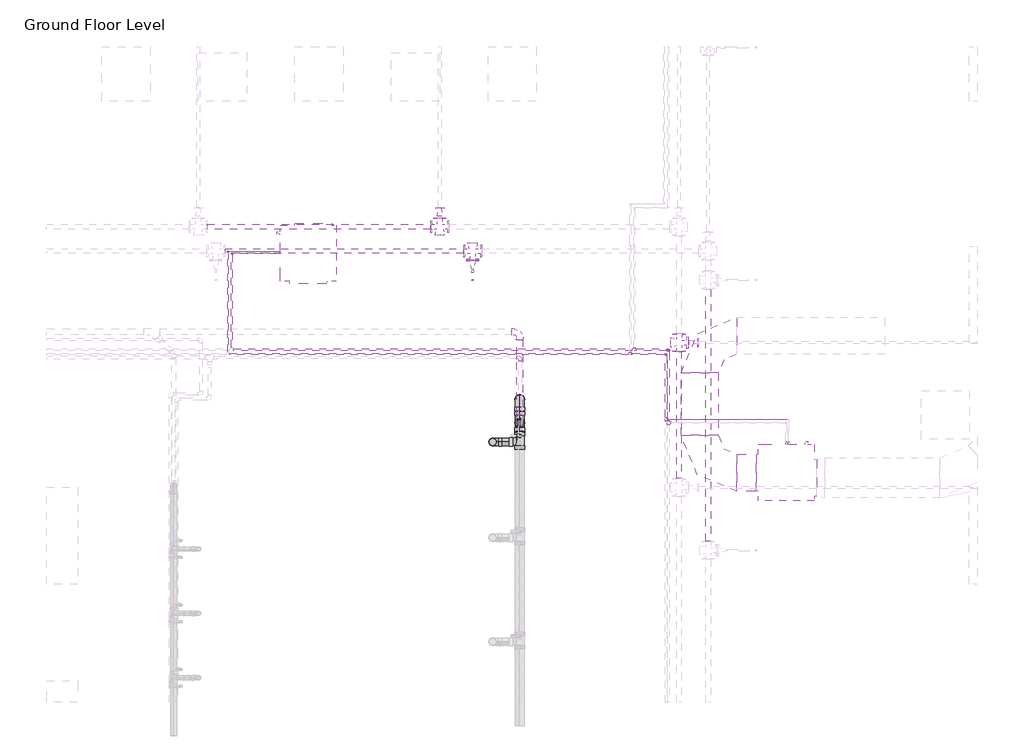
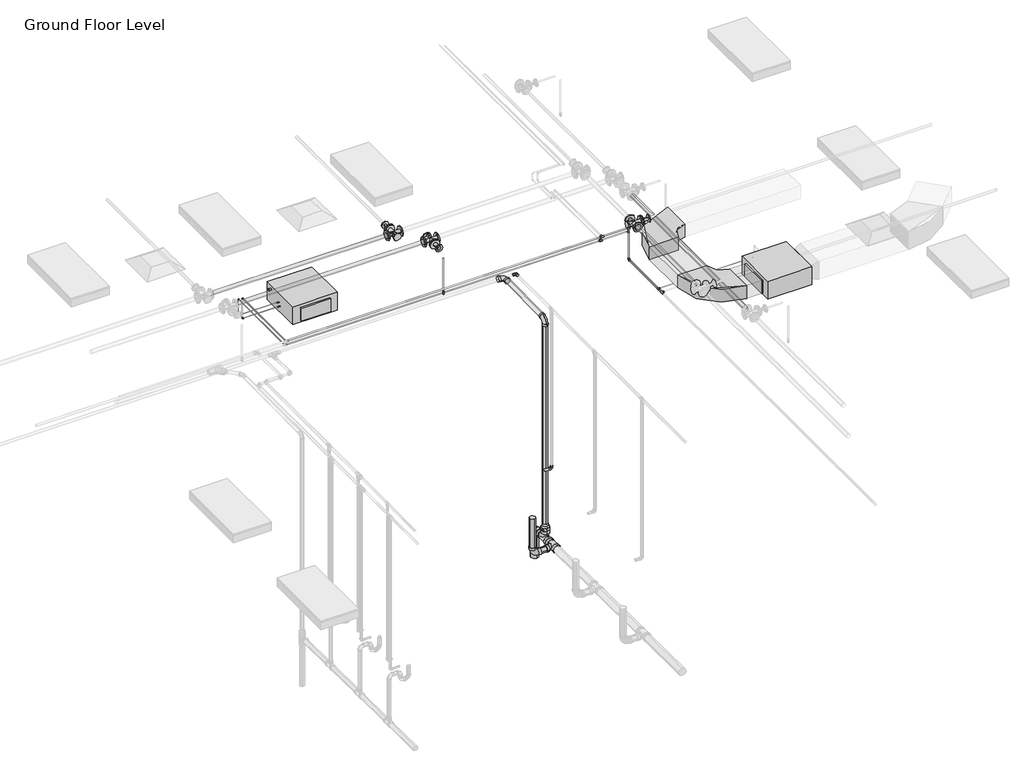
# One storey, part 66 of 73: 31 pipe fittings, 29 pipe segments, 2 duct fittings, 2 duct segments, 2 proxies, 1 fire suppression terminal.
"""IFC4 building model written with IfcOpenShell, lengths in millimetres."""

from ifc_helpers import new_model, si_unit, point, frame, frame_2d, origin, place, context, project, spatial, polyline, circle_curve, trimmed, segment, composite_curve, outline, extrude, transform, mapped, element, save
from components import fcu_daikin_iu_bad131e0, m_rectangular_elbow_radius_1_w_54c96895, m_sprinkler_pendent_15_mm_pendent_06fcbd8e, m_bend_pvc_sch_40_dwv_standard_a4b99d37, m_bend_pvc_sch_40_dwv_standard_b7b4a97e, m_bend_pvc_sch_40_dwv_standard_c8221c0d, m_bend_pvc_sch_40_dwv_standard_69456cca, m_elbow_generic_standard_a088f956, m_elbow_generic_standard_2a704253, m_elbow_generic_standard_6b1a80c6, m_elbow_generic_standard_5542be81, m_elbow_generic_standard_73005802, m_elbow_generic_standard_bb5ffebe, m_reducer_flanged_cs_class_150_standard_a7631c35, m_reducer_flanged_cs_class_150_standard_55262df0, m_reducer_pvc_sch_40_dwv_standard_9996614f, m_tee_generic_standard_cdc1cff5, m_tee_generic_standard_bbfc025c, m_tee_reducing_sanitary_pvc_sch_40_dwv_standard_b49161a9, m_tee_reducing_sanitary_pvc_sch_40_dwv_standard_c42f3c59, m_tee_round_base_flanged_cs_class_150_standard_dd767e04, m_transition_generic_standard_e9aec4dd, m_transition_generic_standard_c2658a33, standard_517a5a8d

model = new_model("IFC4")

# Units and contexts
model_context = context("Model", 3, world=origin())
ifc_project = project(units=[si_unit("LENGTHUNIT", "METRE", prefix="MILLI")], contexts=[model_context])

# Site, building, storey
site = spatial("IfcSite", under=ifc_project)
building = spatial("IfcBuilding", under=site)
storey = spatial("IfcBuildingStorey", under=building, Name="Ground Floor Level", Elevation=900.0)

# Proxies
placement = place(None, origin())
fcu_daikin_iu_shape = fcu_daikin_iu_bad131e0(model_context)
element("IfcBuildingElementProxy", 1, Name="FCU-DAIKIN IU : 4.5kW, 230V/50Hz/1Ph", ObjectType="FCU-DAIKIN IU : 4.5kW, 230V/50Hz/1Ph", at=placement, inside=storey, context=model_context, shape_type="MappedRepresentation", body=[
    mapped(fcu_daikin_iu_shape, transform((6968.8139492, 12019.6779527, 3934.0932729), x_axis=(0.0, 1.0, 0.0), y_axis=(-1.0, 0.0, 0.0), z_axis=(0.0, 0.0, 1.0))),
])
element("IfcBuildingElementProxy", 2, Name="FCU-DAIKIN IU : 4.5kW, 230V/50Hz/1Ph", ObjectType="FCU-DAIKIN IU : 4.5kW, 230V/50Hz/1Ph", at=placement, inside=storey, context=model_context, shape_type="MappedRepresentation", body=[
    mapped(fcu_daikin_iu_shape, transform((1027.7672395, 14745.2153534, 3934.0872564), x_axis=(-1.0, 0.0, 0.0), y_axis=(0.0, -1.0, 0.0), z_axis=(0.0, 0.0, 1.0))),
])

# Duct fittings
m_rectangular_elbow_radius_1_w_shape = m_rectangular_elbow_radius_1_w_54c96895(model_context)
element("IfcDuctFitting", 3, ObjectType="M_Rectangular Elbow - Radius : 1 W", at=placement, inside=storey, context=model_context, shape_type="MappedRepresentation", body=[
    mapped(m_rectangular_elbow_radius_1_w_shape, transform((5893.4139492, 12019.6779527, 4075.2932729), x_axis=(0.0, -1.0, 0.0), y_axis=(1.0, 0.0, 0.0), z_axis=(0.0, 0.0, 1.0))),
])
element("IfcDuctFitting", 4, ObjectType="M_Rectangular Elbow - Radius : 1 W", at=placement, inside=storey, context=model_context, shape_type="MappedRepresentation", body=[
    mapped(m_rectangular_elbow_radius_1_w_shape, transform((5893.4139492, 13719.6783949, 4075.2932729), x_axis=(-1.0, 0.0, 0.0), y_axis=(0.0, -1.0, 0.0), z_axis=(0.0, 0.0, 1.0))),
])

# Duct segments
element("IfcDuctSegment", 5, ObjectType="Radius Elbows / Taps", at=placement, inside=storey, context=model_context, shape_type="SweptSolid", body=[
    extrude(outline(polyline([(6593.4139492, 12250.6154527), (6593.4139492, 11788.7404527), (6355.2889492, 11788.7404527), (6355.2889492, 12250.6154527), (6593.4139492, 12250.6154527)])), frame((0.0, 0.0, 3968.1432729), z_axis=(0.0, 0.0, 1.0), x_axis=(1.0, 0.0, 0.0)), (0.0, 0.0, 1.0), 214.3),
])
element("IfcDuctSegment", 6, ObjectType="Radius Elbows / Taps", at=placement, inside=storey, context=model_context, shape_type="SweptSolid", body=[
    extrude(outline(polyline([(6124.3514492, 12481.5529527), (5662.4764492, 12481.5529527), (5662.4764492, 13257.8033949), (6124.3514492, 13257.8033949), (6124.3514492, 12481.5529527)])), frame((0.0, 0.0, 3968.1432729), z_axis=(0.0, 0.0, 1.0), x_axis=(1.0, 0.0, 0.0)), (0.0, 0.0, 1.0), 214.3),
])

# Fire suppression terminal
m_sprinkler_pendent_15_mm_pendent_shape = m_sprinkler_pendent_15_mm_pendent_06fcbd8e(model_context)
element("IfcFireSuppressionTerminal", 7, ObjectType="M_Sprinkler - Pendent : 15 mm Pendent", at=placement, inside=storey, context=model_context, shape_type="MappedRepresentation", body=[
    mapped(m_sprinkler_pendent_15_mm_pendent_shape, transform((3071.8868905, 14412.7243649, 3650.0), x_axis=(1.0, 0.0, 0.0), y_axis=(0.0, 1.0, 0.0), z_axis=(0.0, 0.0, 1.0))),
])

# Pipe fittings
m_bend_pvc_sch_40_dwv_standard_shape = m_bend_pvc_sch_40_dwv_standard_a4b99d37(model_context)
element("IfcPipeFitting", 8, ObjectType="M_Bend - PVC - Sch 40 - DWV : Standard", at=placement, inside=storey, context=model_context, shape_type="MappedRepresentation", body=[
    mapped(m_bend_pvc_sch_40_dwv_standard_shape, transform((3319.2245422, 12401.0385609, 390.1593073), x_axis=(0.0, 0.0, -1.0), y_axis=(1.0, 0.0, 0.0), z_axis=(0.0, -1.0, 0.0))),
])
m_bend_pvc_sch_40_dwv_standard_2_shape = m_bend_pvc_sch_40_dwv_standard_b7b4a97e(model_context)
element("IfcPipeFitting", 9, ObjectType="M_Bend - PVC - Sch 40 - DWV : Standard", at=placement, inside=storey, context=model_context, shape_type="MappedRepresentation", body=[
    mapped(m_bend_pvc_sch_40_dwv_standard_2_shape, transform((3657.4922763, 12931.9692954, 384.8), x_axis=(0.0, 0.9999500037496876, -0.00999950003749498), y_axis=(0.0, -0.00999950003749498, -0.9999500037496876), z_axis=(-1.0, 0.0, 0.0))),
])
m_bend_pvc_sch_40_dwv_standard_3_shape = m_bend_pvc_sch_40_dwv_standard_c8221c0d(model_context)
element("IfcPipeFitting", 10, ObjectType="M_Bend - PVC - Sch 40 - DWV : Standard", at=placement, inside=storey, context=model_context, shape_type="MappedRepresentation", body=[
    mapped(m_bend_pvc_sch_40_dwv_standard_3_shape, transform((3657.4860907, 12640.4076203, 4054.1870995), x_axis=(0.0, 0.0, 1.0), y_axis=(0.0, 1.0, 0.0), z_axis=(-1.0, 0.0, 0.0))),
])
m_bend_pvc_sch_40_dwv_standard_4_shape = m_bend_pvc_sch_40_dwv_standard_69456cca(model_context)
element("IfcPipeFitting", 11, ObjectType="M_Bend - PVC - Sch 40 - DWV : Standard", at=placement, inside=storey, context=model_context, shape_type="MappedRepresentation", body=[
    mapped(m_bend_pvc_sch_40_dwv_standard_4_shape, transform((3657.4860907, 13768.7316659, 4065.526469), x_axis=(0.0, 0.9999495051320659, 0.010049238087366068), y_axis=(-0.9999499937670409, -0.00010049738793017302, 0.009999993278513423), z_axis=(0.01000049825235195, -0.010048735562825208, 0.9998995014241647))),
])
m_elbow_generic_standard_shape = m_elbow_generic_standard_a088f956(model_context)
element("IfcPipeFitting", 12, ObjectType="M_Elbow - Generic : Standard", at=placement, inside=storey, context=model_context, shape_type="MappedRepresentation", body=[
    mapped(m_elbow_generic_standard_shape, transform((79.6672395, 14745.2153534, 4380.0), x_axis=(0.0, 0.0, 1.0), y_axis=(0.0, -1.0, 0.0), z_axis=(1.0, 0.0, 0.0))),
])
m_elbow_generic_standard_2_shape = m_elbow_generic_standard_2a704253(model_context)
element("IfcPipeFitting", 13, ObjectType="M_Elbow - Generic : Standard", at=placement, inside=storey, context=model_context, shape_type="MappedRepresentation", body=[
    mapped(m_elbow_generic_standard_2_shape, transform((29.9807053, 14770.2153534, 4365.0), x_axis=(0.0, 0.0, 1.0), y_axis=(0.0, -1.0, 0.0), z_axis=(1.0, 0.0, 0.0))),
])
m_elbow_generic_standard_3_shape = m_elbow_generic_standard_6b1a80c6(model_context)
element("IfcPipeFitting", 14, ObjectType="M_Elbow - Generic : Standard", at=placement, inside=storey, context=model_context, shape_type="MappedRepresentation", body=[
    mapped(m_elbow_generic_standard_3_shape, transform((79.6640192, 14745.2153534, 4034.0996164), x_axis=(0.0, 0.0, -1.0), y_axis=(1.0, 0.0, 0.0), z_axis=(0.0, -1.0, 0.0))),
])
m_elbow_generic_standard_4_shape = m_elbow_generic_standard_5542be81(model_context)
element("IfcPipeFitting", 15, ObjectType="M_Elbow - Generic : Standard", at=placement, inside=storey, context=model_context, shape_type="MappedRepresentation", body=[
    mapped(m_elbow_generic_standard_4_shape, transform((29.9777475, 14770.2153534, 4084.8996164), x_axis=(0.0, 0.0, -1.0), y_axis=(1.0, 0.0, 0.0), z_axis=(0.0, -1.0, 0.0))),
])
m_elbow_generic_standard_5_shape = m_elbow_generic_standard_73005802(model_context)
element("IfcPipeFitting", 16, ObjectType="M_Elbow - Generic : Standard", at=placement, inside=storey, context=model_context, shape_type="MappedRepresentation", body=[
    mapped(m_elbow_generic_standard_5_shape, transform((5505.0672395, 13545.2153534, 3851.8370709), x_axis=(0.0, 1.0, 0.0), y_axis=(0.0, 0.0, 1.0), z_axis=(1.0, 0.0, 0.0))),
])
element("IfcPipeFitting", 17, ObjectType="M_Elbow - Generic : Standard", at=placement, inside=storey, context=model_context, shape_type="MappedRepresentation", body=[
    mapped(m_elbow_generic_standard_5_shape, transform((5505.0672395, 13545.2153534, 4380.0), x_axis=(0.0, 0.0, 1.0), y_axis=(-1.0, 0.0, 0.0), z_axis=(0.0, -1.0, 0.0))),
])
m_elbow_generic_standard_6_shape = m_elbow_generic_standard_bb5ffebe(model_context)
element("IfcPipeFitting", 18, ObjectType="M_Elbow - Generic : Standard", at=placement, inside=storey, context=model_context, shape_type="MappedRepresentation", body=[
    mapped(m_elbow_generic_standard_6_shape, transform((5472.2057053, 13494.0185138, 3894.9), x_axis=(0.0, 1.0, 0.0), y_axis=(0.0, 0.0, 1.0), z_axis=(1.0, 0.0, 0.0))),
])
element("IfcPipeFitting", 19, ObjectType="M_Elbow - Generic : Standard", at=placement, inside=storey, context=model_context, shape_type="MappedRepresentation", body=[
    mapped(m_elbow_generic_standard_6_shape, transform((5472.2057053, 13494.0185138, 4365.0), x_axis=(0.0, 0.0, 1.0), y_axis=(-1.0, 0.0, 0.0), z_axis=(0.0, -1.0, 0.0))),
])
m_reducer_flanged_cs_class_150_standard_shape = m_reducer_flanged_cs_class_150_standard_a7631c35(model_context)
element("IfcPipeFitting", 20, ObjectType="M_Reducer - Flanged - CS - Class 150 : Standard", at=placement, inside=storey, context=model_context, shape_type="MappedRepresentation", body=[
    mapped(m_reducer_flanged_cs_class_150_standard_shape, transform((2662.7672395, 15187.2009828, 4360.0), x_axis=(0.0, 1.0, 0.0), y_axis=(-1.0, 0.0, 0.0), z_axis=(0.0, 0.0, 1.0))),
])
element("IfcPipeFitting", 21, ObjectType="M_Reducer - Flanged - CS - Class 150 : Standard", at=placement, inside=storey, context=model_context, shape_type="MappedRepresentation", body=[
    mapped(m_reducer_flanged_cs_class_150_standard_shape, transform((5749.869498, 13635.2153534, 4360.0), x_axis=(1.0, 0.0, 0.0), y_axis=(0.0, 0.0, 1.0), z_axis=(0.0, -1.0, 0.0))),
])
m_reducer_flanged_cs_class_150_standard_2_shape = m_reducer_flanged_cs_class_150_standard_55262df0(model_context)
element("IfcPipeFitting", 22, ObjectType="M_Reducer - Flanged - CS - Class 150 : Standard", at=placement, inside=storey, context=model_context, shape_type="MappedRepresentation", body=[
    mapped(m_reducer_flanged_cs_class_150_standard_2_shape, transform((3071.8868905, 14659.4681847, 4291.0943441), x_axis=(0.0, -1.0, 0.0), y_axis=(1.0, 0.0, 0.0), z_axis=(0.0, 0.0, 1.0))),
])
m_reducer_pvc_sch_40_dwv_standard_shape = m_reducer_pvc_sch_40_dwv_standard_9996614f(model_context)
element("IfcPipeFitting", 23, ObjectType="M_Reducer - PVC - Sch 40 - DWV : Standard", at=placement, inside=storey, context=model_context, shape_type="MappedRepresentation", body=[
    mapped(m_reducer_pvc_sch_40_dwv_standard_shape, transform((3657.4891752, 12640.1615283, 533.8243961), x_axis=(0.0, 7.101608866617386e-05, 0.9999999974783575), y_axis=(0.0, 0.9999999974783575, -7.101608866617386e-05), z_axis=(-1.0, 0.0, 0.0))),
])
m_tee_generic_standard_shape = m_tee_generic_standard_cdc1cff5(model_context)
element("IfcPipeFitting", 24, ObjectType="M_Tee - Generic : Standard", at=placement, inside=storey, context=model_context, shape_type="MappedRepresentation", body=[
    mapped(m_tee_generic_standard_shape, transform((5472.2057053, 12681.5253374, 3894.9), x_axis=(0.0, 1.0, 0.0), y_axis=(-1.0, 0.0, 0.0), z_axis=(0.0, 0.0, 1.0))),
])
element("IfcPipeFitting", 25, ObjectType="M_Tee - Generic : Standard", at=placement, inside=storey, context=model_context, shape_type="MappedRepresentation", body=[
    mapped(m_tee_generic_standard_shape, transform((5029.9807053, 13494.0185138, 4365.0), x_axis=(-1.0, 0.0, 0.0), y_axis=(0.0, -1.0, 0.0), z_axis=(0.0, 0.0, 1.0))),
])
m_tee_generic_standard_2_shape = m_tee_generic_standard_bbfc025c(model_context)
element("IfcPipeFitting", 26, ObjectType="M_Tee - Generic : Standard", at=placement, inside=storey, context=model_context, shape_type="MappedRepresentation", body=[
    mapped(m_tee_generic_standard_2_shape, transform((5505.0672395, 12641.4098545, 3851.8370709), x_axis=(0.0, 1.0, 0.0), y_axis=(-1.0, 0.0, 0.0), z_axis=(0.0, 0.0, 1.0))),
])
element("IfcPipeFitting", 27, ObjectType="M_Tee - Generic : Standard", at=placement, inside=storey, context=model_context, shape_type="MappedRepresentation", body=[
    mapped(m_tee_generic_standard_2_shape, transform((5079.6672395, 13545.2153534, 4380.0), x_axis=(-1.0, 0.0, 0.0), y_axis=(0.0, -1.0, 0.0), z_axis=(0.0, 0.0, 1.0))),
])
m_tee_reducing_sanitary_pvc_sch_40_dwv_standard_shape = m_tee_reducing_sanitary_pvc_sch_40_dwv_standard_b49161a9(model_context)
element("IfcPipeFitting", 28, ObjectType="M_Tee Reducing Sanitary - PVC - Sch 40 - DWV : Standard", at=placement, inside=storey, context=model_context, shape_type="MappedRepresentation", body=[
    mapped(m_tee_reducing_sanitary_pvc_sch_40_dwv_standard_shape, transform((3657.4922763, 12401.038061, 390.1093123), x_axis=(0.0, -0.9999500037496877, 0.009999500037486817), y_axis=(1.0000000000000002, 0.0, 0.0), z_axis=(0.0, 0.009999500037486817, 0.9999500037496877))),
])
m_tee_reducing_sanitary_pvc_sch_40_dwv_standard_2_shape = m_tee_reducing_sanitary_pvc_sch_40_dwv_standard_c42f3c59(model_context)
element("IfcPipeFitting", 29, ObjectType="M_Tee Reducing Sanitary - PVC - Sch 40 - DWV : Standard", at=placement, inside=storey, context=model_context, shape_type="MappedRepresentation", body=[
    mapped(m_tee_reducing_sanitary_pvc_sch_40_dwv_standard_2_shape, transform((3657.4922763, 12640.3832411, 387.7158605), x_axis=(0.0, -0.9999500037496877, 0.009999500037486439), y_axis=(0.0, -0.009999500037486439, -0.9999500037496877), z_axis=(1.0, 0.0, 0.0))),
])
m_tee_round_base_flanged_cs_class_150_standard_shape = m_tee_round_base_flanged_cs_class_150_standard_dd767e04(model_context)
element("IfcPipeFitting", 30, ObjectType="M_Tee Round Base - Flanged - CS - Class 150 : Standard", at=placement, inside=storey, context=model_context, shape_type="MappedRepresentation", body=[
    mapped(m_tee_round_base_flanged_cs_class_150_standard_shape, transform((3071.8868905, 14773.4681847, 4291.0943441), x_axis=(-1.0, 0.0, 0.0), y_axis=(0.0, 1.0, 0.0), z_axis=(0.0, 0.0, -1.0))),
])
element("IfcPipeFitting", 31, ObjectType="M_Tee Round Base - Flanged - CS - Class 150 : Standard", at=placement, inside=storey, context=model_context, shape_type="MappedRepresentation", body=[
    mapped(m_tee_round_base_flanged_cs_class_150_standard_shape, transform((2662.7672395, 15073.2009828, 4360.0), x_axis=(-1.0, 0.0, 0.0), y_axis=(0.0, -1.0, 0.0), z_axis=(0.0, 0.0, 1.0))),
])
element("IfcPipeFitting", 32, ObjectType="M_Tee Round Base - Flanged - CS - Class 150 : Standard", at=placement, inside=storey, context=model_context, shape_type="MappedRepresentation", body=[
    mapped(m_tee_round_base_flanged_cs_class_150_standard_shape, transform((5635.869498, 13635.2153534, 4360.0), x_axis=(0.0, 1.0, 0.0), y_axis=(-1.0, 0.0, 0.0), z_axis=(0.0, 0.0, 1.0))),
])
m_transition_generic_standard_shape = m_transition_generic_standard_e9aec4dd(model_context)
element("IfcPipeFitting", 33, ObjectType="M_Transition - Generic : Standard", at=placement, inside=storey, context=model_context, shape_type="MappedRepresentation", body=[
    mapped(m_transition_generic_standard_shape, transform((5530.4672395, 12641.4098545, 3851.8370709), x_axis=(1.0, 0.0, 0.0), y_axis=(0.0, 1.0, 0.0), z_axis=(0.0, 0.0, 1.0))),
])
element("IfcPipeFitting", 34, ObjectType="M_Transition - Generic : Standard", at=placement, inside=storey, context=model_context, shape_type="MappedRepresentation", body=[
    mapped(m_transition_generic_standard_shape, transform((5079.6672395, 13570.6153534, 4380.0), x_axis=(0.0, 1.0, 0.0), y_axis=(-1.0, 0.0, 0.0), z_axis=(0.0, 0.0, 1.0))),
])
m_transition_generic_standard_2_shape = m_transition_generic_standard_c2658a33(model_context)
element("IfcPipeFitting", 35, ObjectType="M_Transition - Generic : Standard", at=placement, inside=storey, context=model_context, shape_type="MappedRepresentation", body=[
    mapped(m_transition_generic_standard_2_shape, transform((5494.4307053, 12681.5253374, 3894.9), x_axis=(1.0, 0.0, 0.0), y_axis=(0.0, 1.0, 0.0), z_axis=(0.0, 0.0, 1.0))),
])
element("IfcPipeFitting", 36, ObjectType="M_Transition - Generic : Standard", at=placement, inside=storey, context=model_context, shape_type="MappedRepresentation", body=[
    mapped(m_transition_generic_standard_2_shape, transform((5029.9807053, 13516.2435138, 4365.0), x_axis=(0.0, 1.0, 0.0), y_axis=(-1.0, 0.0, 0.0), z_axis=(0.0, 0.0, 1.0))),
])
standard_shape = standard_517a5a8d(model_context)
element("IfcPipeFitting", 37, ObjectType="M_Elbow - CPVC - Sch 40 : Standard", at=placement, inside=storey, context=model_context, shape_type="MappedRepresentation", body=[
    mapped(standard_shape, transform((3662.4674395, 13449.9865561, 4315.0), x_axis=(0.0, 1.0, 0.0), y_axis=(-1.0, 0.0, 0.0), z_axis=(0.0, 0.0, 1.0))),
])
element("IfcPipeFitting", 38, ObjectType="M_Elbow - CPVC - Sch 40 : Standard", at=placement, inside=storey, context=model_context, shape_type="MappedRepresentation", body=[
    mapped(standard_shape, transform((3662.4674395, 12474.4768272, 1655.0), x_axis=(0.0, 0.0, -1.0), y_axis=(-1.0, 0.0, 0.0), z_axis=(0.0, 1.0, 0.0))),
])

# Pipe segments
element("IfcPipeSegment", 39, ObjectType="Copper", at=placement, inside=storey, context=model_context, shape_type="SweptSolid", body=[
    extrude(outline(composite_curve([segment(trimmed(circle_curve(frame_2d((0.0, -6.5)), 6.5), [point((-6.5, -6.5))], [point((0.0, 0.0))], False, "CARTESIAN"), True, "CONTINUOUS"), segment(trimmed(circle_curve(frame_2d((0.0, -6.5)), 6.5), [point((0.0, 0.0))], [point((6.5, -6.5))], False, "CARTESIAN"), True, "CONTINUOUS"), segment(trimmed(circle_curve(frame_2d((0.0, -6.5)), 6.5), [point((6.5, -6.5))], [point((0.0, -13.0))], False, "CARTESIAN"), True, "CONTINUOUS"), segment(trimmed(circle_curve(frame_2d((0.0, -6.5)), 6.5), [point((0.0, -13.0))], [point((-6.5, -6.5))], False, "CARTESIAN"), True, "CONTINUOUS")], self_intersect=False)), frame((639.667096, 14745.2153534, 4027.5872564), z_axis=(-0.9999999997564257, 0.0, 2.207144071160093e-05), x_axis=(0.0, 1.0, 0.0)), (0.0, 0.0, 1.0), 545.7160357),
])
element("IfcPipeSegment", 40, ObjectType="Copper", at=placement, inside=storey, context=model_context, shape_type="SweptSolid", body=[
    extrude(outline(composite_curve([segment(trimmed(circle_curve(frame_2d((0.0, -3.35)), 3.35), [point((-3.35, -3.35))], [point((0.0, 0.0))], False, "CARTESIAN"), True, "CONTINUOUS"), segment(trimmed(circle_curve(frame_2d((0.0, -3.35)), 3.35), [point((0.0, 0.0))], [point((3.35, -3.35))], False, "CARTESIAN"), True, "CONTINUOUS"), segment(trimmed(circle_curve(frame_2d((0.0, -3.35)), 3.35), [point((3.35, -3.35))], [point((0.0, -6.7))], False, "CARTESIAN"), True, "CONTINUOUS"), segment(trimmed(circle_curve(frame_2d((0.0, -3.35)), 3.35), [point((0.0, -6.7))], [point((-3.35, -3.35))], False, "CARTESIAN"), True, "CONTINUOUS")], self_intersect=False)), frame((639.6671716, 14770.2153534, 4081.5372564), z_axis=(-0.9999999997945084, 0.0, 2.027272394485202e-05), x_axis=(0.0, 1.0, 0.0)), (0.0, 0.0, 1.0), 598.5522179),
])
element("IfcPipeSegment", 41, ObjectType="Copper", at=placement, inside=storey, context=model_context, shape_type="SweptSolid", body=[
    extrude(outline(composite_curve([segment(trimmed(circle_curve(frame_2d((4380.0, 79.6672395)), 6.5), [point((4380.0, 73.1672395))], [point((4373.5, 79.6672395))], False, "CARTESIAN"), True, "CONTINUOUS"), segment(trimmed(circle_curve(frame_2d((4380.0, 79.6672395)), 6.5), [point((4373.5, 79.6672395))], [point((4380.0, 86.1672395))], False, "CARTESIAN"), True, "CONTINUOUS"), segment(trimmed(circle_curve(frame_2d((4380.0, 79.6672395)), 6.5), [point((4380.0, 86.1672395))], [point((4386.5, 79.6672395))], False, "CARTESIAN"), True, "CONTINUOUS"), segment(trimmed(circle_curve(frame_2d((4380.0, 79.6672395)), 6.5), [point((4386.5, 79.6672395))], [point((4380.0, 73.1672395))], False, "CARTESIAN"), True, "CONTINUOUS")], self_intersect=False)), frame((0.0, 13576.9653534, 0.0), z_axis=(0.0, 1.0, 0.0), x_axis=(0.0, 0.0, 1.0)), (0.0, 0.0, 1.0), 1153.9625),
])
element("IfcPipeSegment", 42, ObjectType="Copper", at=placement, inside=storey, context=model_context, shape_type="SweptSolid", body=[
    extrude(outline(composite_curve([segment(trimmed(circle_curve(frame_2d((0.0, -6.5)), 6.5), [point((-6.5, -6.5))], [point((0.0, 0.0))], False, "CARTESIAN"), True, "CONTINUOUS"), segment(trimmed(circle_curve(frame_2d((0.0, -6.5)), 6.5), [point((0.0, 0.0))], [point((6.5, -6.5))], False, "CARTESIAN"), True, "CONTINUOUS"), segment(trimmed(circle_curve(frame_2d((0.0, -6.5)), 6.5), [point((6.5, -6.5))], [point((0.0, -13.0))], False, "CARTESIAN"), True, "CONTINUOUS"), segment(trimmed(circle_curve(frame_2d((0.0, -6.5)), 6.5), [point((0.0, -13.0))], [point((-6.5, -6.5))], False, "CARTESIAN"), True, "CONTINUOUS")], self_intersect=False)), frame((79.6640192, 14738.7153534, 4048.3868011), z_axis=(1.014803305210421e-05, 0.0, 0.9999999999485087), x_axis=(-0.9999999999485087, 0.0, 1.014803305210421e-05)), (0.0, 0.0, 1.0), 317.3256989),
])
element("IfcPipeSegment", 43, ObjectType="Copper", at=placement, inside=storey, context=model_context, shape_type="SweptSolid", body=[
    extrude(outline(composite_curve([segment(trimmed(circle_curve(frame_2d((4365.0, 29.9807053)), 3.35), [point((4365.0, 26.6307053))], [point((4361.65, 29.9807053))], False, "CARTESIAN"), True, "CONTINUOUS"), segment(trimmed(circle_curve(frame_2d((4365.0, 29.9807053)), 3.35), [point((4361.65, 29.9807053))], [point((4365.0, 33.3307053))], False, "CARTESIAN"), True, "CONTINUOUS"), segment(trimmed(circle_curve(frame_2d((4365.0, 29.9807053)), 3.35), [point((4365.0, 33.3307053))], [point((4368.35, 29.9807053))], False, "CARTESIAN"), True, "CONTINUOUS"), segment(trimmed(circle_curve(frame_2d((4365.0, 29.9807053)), 3.35), [point((4368.35, 29.9807053))], [point((4365.0, 26.6307053))], False, "CARTESIAN"), True, "CONTINUOUS")], self_intersect=False)), frame((0.0, 13521.0060138, 0.0), z_axis=(0.0, 1.0, 0.0), x_axis=(0.0, 0.0, 1.0)), (0.0, 0.0, 1.0), 1238.0718396),
])
element("IfcPipeSegment", 44, ObjectType="Copper", at=placement, inside=storey, context=model_context, shape_type="SweptSolid", body=[
    extrude(outline(composite_curve([segment(trimmed(circle_curve(frame_2d((0.0, -3.35)), 3.35), [point((-3.35, -3.35))], [point((0.0, 0.0))], False, "CARTESIAN"), True, "CONTINUOUS"), segment(trimmed(circle_curve(frame_2d((0.0, -3.35)), 3.35), [point((0.0, 0.0))], [point((3.35, -3.35))], False, "CARTESIAN"), True, "CONTINUOUS"), segment(trimmed(circle_curve(frame_2d((0.0, -3.35)), 3.35), [point((3.35, -3.35))], [point((0.0, -6.7))], False, "CARTESIAN"), True, "CONTINUOUS"), segment(trimmed(circle_curve(frame_2d((0.0, -3.35)), 3.35), [point((0.0, -6.7))], [point((-3.35, -3.35))], False, "CARTESIAN"), True, "CONTINUOUS")], self_intersect=False)), frame((29.9777475, 14766.8653534, 4096.0368906), z_axis=(1.1472088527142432e-05, 0.0, 0.9999999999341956), x_axis=(-0.9999999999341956, 0.0, 1.1472088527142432e-05)), (0.0, 0.0, 1.0), 257.8256094),
])
element("IfcPipeSegment", 45, ObjectType="Copper", at=placement, inside=storey, context=model_context, shape_type="SweptSolid", body=[
    extrude(outline(composite_curve([segment(trimmed(circle_curve(frame_2d((13494.0185138, 4365.0)), 8.1), [point((13485.9185138, 4365.0))], [point((13494.0185138, 4373.1))], False, "CARTESIAN"), True, "CONTINUOUS"), segment(trimmed(circle_curve(frame_2d((13494.0185138, 4365.0)), 8.1), [point((13494.0185138, 4373.1))], [point((13502.1185138, 4365.0))], False, "CARTESIAN"), True, "CONTINUOUS"), segment(trimmed(circle_curve(frame_2d((13494.0185138, 4365.0)), 8.1), [point((13502.1185138, 4365.0))], [point((13494.0185138, 4356.9))], False, "CARTESIAN"), True, "CONTINUOUS"), segment(trimmed(circle_curve(frame_2d((13494.0185138, 4365.0)), 8.1), [point((13494.0185138, 4356.9))], [point((13485.9185138, 4365.0))], False, "CARTESIAN"), True, "CONTINUOUS")], self_intersect=False)), frame((5052.2057053, 0.0, 0.0), z_axis=(1.0, 0.0, 0.0), x_axis=(0.0, 1.0, 0.0)), (0.0, 0.0, 1.0), 404.125),
])
element("IfcPipeSegment", 46, ObjectType="Copper", at=placement, inside=storey, context=model_context, shape_type="SweptSolid", body=[
    extrude(outline(composite_curve([segment(trimmed(circle_curve(frame_2d((12681.5253374, 3894.9)), 3.35), [point((12684.8753374, 3894.9))], [point((12681.5253374, 3891.55))], False, "CARTESIAN"), True, "CONTINUOUS"), segment(trimmed(circle_curve(frame_2d((12681.5253374, 3894.9)), 3.35), [point((12681.5253374, 3891.55))], [point((12678.1753374, 3894.9))], False, "CARTESIAN"), True, "CONTINUOUS"), segment(trimmed(circle_curve(frame_2d((12681.5253374, 3894.9)), 3.35), [point((12678.1753374, 3894.9))], [point((12681.5253374, 3898.25))], False, "CARTESIAN"), True, "CONTINUOUS"), segment(trimmed(circle_curve(frame_2d((12681.5253374, 3894.9)), 3.35), [point((12681.5253374, 3898.25))], [point((12684.8753374, 3894.9))], False, "CARTESIAN"), True, "CONTINUOUS")], self_intersect=False)), frame((5499.1932053, 0.0, 0.0), z_axis=(1.0, 0.0, 0.0), x_axis=(0.0, 1.0, 0.0)), (0.0, 0.0, 1.0), 1483.483244),
])
element("IfcPipeSegment", 47, ObjectType="Copper", at=placement, inside=storey, context=model_context, shape_type="SweptSolid", body=[
    extrude(outline(composite_curve([segment(trimmed(circle_curve(frame_2d((5505.0672395, 13545.2153534)), 11.5), [point((5493.5672395, 13545.2153534))], [point((5505.0672395, 13556.7153534))], False, "CARTESIAN"), True, "CONTINUOUS"), segment(trimmed(circle_curve(frame_2d((5505.0672395, 13545.2153534)), 11.5), [point((5505.0672395, 13556.7153534))], [point((5516.5672395, 13545.2153534))], False, "CARTESIAN"), True, "CONTINUOUS"), segment(trimmed(circle_curve(frame_2d((5505.0672395, 13545.2153534)), 11.5), [point((5516.5672395, 13545.2153534))], [point((5505.0672395, 13533.7153534))], False, "CARTESIAN"), True, "CONTINUOUS"), segment(trimmed(circle_curve(frame_2d((5505.0672395, 13545.2153534)), 11.5), [point((5505.0672395, 13533.7153534))], [point((5493.5672395, 13545.2153534))], False, "CARTESIAN"), True, "CONTINUOUS")], self_intersect=False)), frame((0.0, 0.0, 3870.8870709), z_axis=(0.0, 0.0, 1.0), x_axis=(1.0, 0.0, 0.0)), (0.0, 0.0, 1.0), 490.0629291),
])
element("IfcPipeSegment", 48, ObjectType="Copper", at=placement, inside=storey, context=model_context, shape_type="SweptSolid", body=[
    extrude(outline(composite_curve([segment(trimmed(circle_curve(frame_2d((5472.2057053, 13494.0185138)), 8.1), [point((5464.1057053, 13494.0185138))], [point((5472.2057053, 13502.1185138))], False, "CARTESIAN"), True, "CONTINUOUS"), segment(trimmed(circle_curve(frame_2d((5472.2057053, 13494.0185138)), 8.1), [point((5472.2057053, 13502.1185138))], [point((5480.3057053, 13494.0185138))], False, "CARTESIAN"), True, "CONTINUOUS"), segment(trimmed(circle_curve(frame_2d((5472.2057053, 13494.0185138)), 8.1), [point((5480.3057053, 13494.0185138))], [point((5472.2057053, 13485.9185138))], False, "CARTESIAN"), True, "CONTINUOUS"), segment(trimmed(circle_curve(frame_2d((5472.2057053, 13494.0185138)), 8.1), [point((5472.2057053, 13485.9185138))], [point((5464.1057053, 13494.0185138))], False, "CARTESIAN"), True, "CONTINUOUS")], self_intersect=False)), frame((0.0, 0.0, 3910.775), z_axis=(0.0, 0.0, 1.0), x_axis=(1.0, 0.0, 0.0)), (0.0, 0.0, 1.0), 438.35),
])
element("IfcPipeSegment", 49, ObjectType="Copper", at=placement, inside=storey, context=model_context, shape_type="SweptSolid", body=[
    extrude(outline(composite_curve([segment(trimmed(circle_curve(frame_2d((3851.8370709, 5505.0672395)), 11.5), [point((3851.8370709, 5493.5672395))], [point((3840.3370709, 5505.0672395))], False, "CARTESIAN"), True, "CONTINUOUS"), segment(trimmed(circle_curve(frame_2d((3851.8370709, 5505.0672395)), 11.5), [point((3840.3370709, 5505.0672395))], [point((3851.8370709, 5516.5672395))], False, "CARTESIAN"), True, "CONTINUOUS"), segment(trimmed(circle_curve(frame_2d((3851.8370709, 5505.0672395)), 11.5), [point((3851.8370709, 5516.5672395))], [point((3863.3370709, 5505.0672395))], False, "CARTESIAN"), True, "CONTINUOUS"), segment(trimmed(circle_curve(frame_2d((3851.8370709, 5505.0672395)), 11.5), [point((3863.3370709, 5505.0672395))], [point((3851.8370709, 5493.5672395))], False, "CARTESIAN"), True, "CONTINUOUS")], self_intersect=False)), frame((0.0, 12666.8098545, 0.0), z_axis=(0.0, 1.0, 0.0), x_axis=(0.0, 0.0, 1.0)), (0.0, 0.0, 1.0), 859.3554989),
])
element("IfcPipeSegment", 50, ObjectType="Copper", at=placement, inside=storey, context=model_context, shape_type="SweptSolid", body=[
    extrude(outline(composite_curve([segment(trimmed(circle_curve(frame_2d((3894.9, 5472.2057053)), 8.1), [point((3894.9, 5464.1057053))], [point((3886.8, 5472.2057053))], False, "CARTESIAN"), True, "CONTINUOUS"), segment(trimmed(circle_curve(frame_2d((3894.9, 5472.2057053)), 8.1), [point((3886.8, 5472.2057053))], [point((3894.9, 5480.3057053))], False, "CARTESIAN"), True, "CONTINUOUS"), segment(trimmed(circle_curve(frame_2d((3894.9, 5472.2057053)), 8.1), [point((3894.9, 5480.3057053))], [point((3903.0, 5472.2057053))], False, "CARTESIAN"), True, "CONTINUOUS"), segment(trimmed(circle_curve(frame_2d((3894.9, 5472.2057053)), 8.1), [point((3903.0, 5472.2057053))], [point((3894.9, 5464.1057053))], False, "CARTESIAN"), True, "CONTINUOUS")], self_intersect=False)), frame((0.0, 12703.7503374, 0.0), z_axis=(0.0, 1.0, 0.0), x_axis=(0.0, 0.0, 1.0)), (0.0, 0.0, 1.0), 774.3931764),
])
element("IfcPipeSegment", 51, ObjectType="Copper", at=placement, inside=storey, context=model_context, shape_type="SweptSolid", body=[
    extrude(outline(composite_curve([segment(trimmed(circle_curve(frame_2d((13494.0185138, 4365.0)), 8.1), [point((13485.9185138, 4365.0))], [point((13494.0185138, 4373.1))], False, "CARTESIAN"), True, "CONTINUOUS"), segment(trimmed(circle_curve(frame_2d((13494.0185138, 4365.0)), 8.1), [point((13494.0185138, 4373.1))], [point((13502.1185138, 4365.0))], False, "CARTESIAN"), True, "CONTINUOUS"), segment(trimmed(circle_curve(frame_2d((13494.0185138, 4365.0)), 8.1), [point((13502.1185138, 4365.0))], [point((13494.0185138, 4356.9))], False, "CARTESIAN"), True, "CONTINUOUS"), segment(trimmed(circle_curve(frame_2d((13494.0185138, 4365.0)), 8.1), [point((13494.0185138, 4356.9))], [point((13485.9185138, 4365.0))], False, "CARTESIAN"), True, "CONTINUOUS")], self_intersect=False)), frame((52.2057053, 0.0, 0.0), z_axis=(1.0, 0.0, 0.0), x_axis=(0.0, 1.0, 0.0)), (0.0, 0.0, 1.0), 4955.55),
])
element("IfcPipeSegment", 52, ObjectType="Copper", at=placement, inside=storey, context=model_context, shape_type="SweptSolid", body=[
    extrude(outline(composite_curve([segment(trimmed(circle_curve(frame_2d((13545.2153534, 4380.0)), 11.5), [point((13533.7153534, 4380.0))], [point((13545.2153534, 4391.5))], False, "CARTESIAN"), True, "CONTINUOUS"), segment(trimmed(circle_curve(frame_2d((13545.2153534, 4380.0)), 11.5), [point((13545.2153534, 4391.5))], [point((13556.7153534, 4380.0))], False, "CARTESIAN"), True, "CONTINUOUS"), segment(trimmed(circle_curve(frame_2d((13545.2153534, 4380.0)), 11.5), [point((13556.7153534, 4380.0))], [point((13545.2153534, 4368.5))], False, "CARTESIAN"), True, "CONTINUOUS"), segment(trimmed(circle_curve(frame_2d((13545.2153534, 4380.0)), 11.5), [point((13545.2153534, 4368.5))], [point((13533.7153534, 4380.0))], False, "CARTESIAN"), True, "CONTINUOUS")], self_intersect=False)), frame((5105.0672395, 0.0, 0.0), z_axis=(1.0, 0.0, 0.0), x_axis=(0.0, 1.0, 0.0)), (0.0, 0.0, 1.0), 380.95),
])
element("IfcPipeSegment", 53, ObjectType="Copper", at=placement, inside=storey, context=model_context, shape_type="SweptSolid", body=[
    extrude(outline(composite_curve([segment(trimmed(circle_curve(frame_2d((13545.2153534, 4380.0)), 11.5), [point((13533.7153534, 4380.0))], [point((13545.2153534, 4391.5))], False, "CARTESIAN"), True, "CONTINUOUS"), segment(trimmed(circle_curve(frame_2d((13545.2153534, 4380.0)), 11.5), [point((13545.2153534, 4391.5))], [point((13556.7153534, 4380.0))], False, "CARTESIAN"), True, "CONTINUOUS"), segment(trimmed(circle_curve(frame_2d((13545.2153534, 4380.0)), 11.5), [point((13556.7153534, 4380.0))], [point((13545.2153534, 4368.5))], False, "CARTESIAN"), True, "CONTINUOUS"), segment(trimmed(circle_curve(frame_2d((13545.2153534, 4380.0)), 11.5), [point((13545.2153534, 4368.5))], [point((13533.7153534, 4380.0))], False, "CARTESIAN"), True, "CONTINUOUS")], self_intersect=False)), frame((105.0672395, 0.0, 0.0), z_axis=(1.0, 0.0, 0.0), x_axis=(0.0, 1.0, 0.0)), (0.0, 0.0, 1.0), 4949.2),
])
element("IfcPipeSegment", 54, ObjectType="PVC - DWV", at=placement, inside=storey, context=model_context, shape_type="SweptSolid", body=[
    extrude(outline(composite_curve([segment(trimmed(circle_curve(frame_2d((3657.4922763, 12931.9692954)), 57.15), [point((3714.6422763, 12931.9692954))], [point((3657.4922763, 12874.8192954))], False, "CARTESIAN"), True, "CONTINUOUS"), segment(trimmed(circle_curve(frame_2d((3657.4922763, 12931.9692954)), 57.15), [point((3657.4922763, 12874.8192954))], [point((3600.3422763, 12931.9692954))], False, "CARTESIAN"), True, "CONTINUOUS"), segment(trimmed(circle_curve(frame_2d((3657.4922763, 12931.9692954)), 57.15), [point((3600.3422763, 12931.9692954))], [point((3657.4922763, 12989.1192954))], False, "CARTESIAN"), True, "CONTINUOUS"), segment(trimmed(circle_curve(frame_2d((3657.4922763, 12931.9692954)), 57.15), [point((3657.4922763, 12989.1192954))], [point((3714.6422763, 12931.9692954))], False, "CARTESIAN"), True, "CONTINUOUS")], self_intersect=False)), frame((0.0, 0.0, -100.0), z_axis=(0.0, 0.0, 1.0), x_axis=(1.0, 0.0, 0.0)), (0.0, 0.0, 1.0), 341.925),
])
element("IfcPipeSegment", 55, ObjectType="PVC - DWV", at=placement, inside=storey, context=model_context, shape_type="SweptSolid", body=[
    extrude(outline(composite_curve([segment(trimmed(circle_curve(frame_2d((0.0, -44.45)), 44.45), [point((-44.45, -44.45))], [point((0.0, 0.0))], False, "CARTESIAN"), True, "CONTINUOUS"), segment(trimmed(circle_curve(frame_2d((0.0, -44.45)), 44.45), [point((0.0, 0.0))], [point((44.45, -44.45))], False, "CARTESIAN"), True, "CONTINUOUS"), segment(trimmed(circle_curve(frame_2d((0.0, -44.45)), 44.45), [point((44.45, -44.45))], [point((0.0, -88.9))], False, "CARTESIAN"), True, "CONTINUOUS"), segment(trimmed(circle_curve(frame_2d((0.0, -44.45)), 44.45), [point((0.0, -88.9))], [point((-44.45, -44.45))], False, "CARTESIAN"), True, "CONTINUOUS")], self_intersect=False)), frame((3319.2245422, 12356.5885609, 506.0594614), z_axis=(0.0, -1.0330815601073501e-06, 0.9999999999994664), x_axis=(-1.0, 0.0, 0.0)), (0.0, 0.0, 1.0), 483.9404927),
])
element("IfcPipeSegment", 56, ObjectType="PVC - DWV", at=placement, inside=storey, context=model_context, shape_type="SweptSolid", body=[
    extrude(outline(composite_curve([segment(trimmed(circle_curve(frame_2d((12401.038061, 390.1093123)), 44.45), [point((12356.588061, 390.1093123))], [point((12401.038061, 434.5593123))], False, "CARTESIAN"), True, "CONTINUOUS"), segment(trimmed(circle_curve(frame_2d((12401.038061, 390.1093123)), 44.45), [point((12401.038061, 434.5593123))], [point((12445.488061, 390.1093123))], False, "CARTESIAN"), True, "CONTINUOUS"), segment(trimmed(circle_curve(frame_2d((12401.038061, 390.1093123)), 44.45), [point((12445.488061, 390.1093123))], [point((12401.038061, 345.6593123))], False, "CARTESIAN"), True, "CONTINUOUS"), segment(trimmed(circle_curve(frame_2d((12401.038061, 390.1093123)), 44.45), [point((12401.038061, 345.6593123))], [point((12356.588061, 390.1093123))], False, "CARTESIAN"), True, "CONTINUOUS")], self_intersect=False)), frame((3435.1247422, 0.0, 0.0), z_axis=(1.0, 0.0, 0.0), x_axis=(0.0, 1.0, 0.0)), (0.0, 0.0, 1.0), 93.767334),
])
element("IfcPipeSegment", 57, ObjectType="PVC - DWV", at=placement, inside=storey, context=model_context, shape_type="SweptSolid", body=[
    extrude(outline(composite_curve([segment(trimmed(circle_curve(frame_2d((0.0, 36.5125)), 36.5125), [point((36.5125, 36.5125))], [point((0.0, 0.0))], False, "CARTESIAN"), True, "CONTINUOUS"), segment(trimmed(circle_curve(frame_2d((0.0, 36.5125)), 36.5125), [point((0.0, 0.0))], [point((-36.5125, 36.5125))], False, "CARTESIAN"), True, "CONTINUOUS"), segment(trimmed(circle_curve(frame_2d((0.0, 36.5125)), 36.5125), [point((-36.5125, 36.5125))], [point((0.0, 73.025))], False, "CARTESIAN"), True, "CONTINUOUS"), segment(trimmed(circle_curve(frame_2d((0.0, 36.5125)), 36.5125), [point((0.0, 73.025))], [point((36.5125, 36.5125))], False, "CARTESIAN"), True, "CONTINUOUS")], self_intersect=False)), frame((3657.4860907, 12739.0497603, 4091.6927716), z_axis=(0.0, 0.9999495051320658, 0.010049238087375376), x_axis=(1.0, 0.0, 0.0)), (0.0, 0.0, 1.0), 930.3528981),
])
element("IfcPipeSegment", 58, ObjectType="PVC - DWV", at=placement, inside=storey, context=model_context, shape_type="SweptSolid", body=[
    extrude(outline(composite_curve([segment(trimmed(circle_curve(frame_2d((0.0, 57.1499999)), 57.15), [point((-57.15, 57.1499999))], [point((0.0, 114.3))], False, "CARTESIAN"), True, "CONTINUOUS"), segment(trimmed(circle_curve(frame_2d((0.0, 57.1499999)), 57.15), [point((0.0, 114.3))], [point((57.15, 57.1499999))], False, "CARTESIAN"), True, "CONTINUOUS"), segment(trimmed(circle_curve(frame_2d((0.0, 57.1499999)), 57.15), [point((57.15, 57.1499999))], [point((0.0, 0.0))], False, "CARTESIAN"), True, "CONTINUOUS"), segment(trimmed(circle_curve(frame_2d((0.0, 57.1499999)), 57.15), [point((0.0, 0.0))], [point((-57.15, 57.1499999))], False, "CARTESIAN"), True, "CONTINUOUS")], self_intersect=False)), frame((3657.4891752, 12583.0107966, 528.5214125), z_axis=(0.0, 0.0001378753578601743, 0.9999999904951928), x_axis=(1.0, 0.0, 0.0)), (0.0, 0.0, 1.0), 5.3108632),
])
element("IfcPipeSegment", 59, ObjectType="PVC - DWV", at=placement, inside=storey, context=model_context, shape_type="SweptSolid", body=[
    extrude(outline(composite_curve([segment(trimmed(circle_curve(frame_2d((0.0, -57.15)), 57.15), [point((57.15, -57.15))], [point((0.0, -114.3))], False, "CARTESIAN"), True, "CONTINUOUS"), segment(trimmed(circle_curve(frame_2d((0.0, -57.15)), 57.15), [point((0.0, -114.3))], [point((-57.15, -57.15))], False, "CARTESIAN"), True, "CONTINUOUS"), segment(trimmed(circle_curve(frame_2d((0.0, -57.15)), 57.15), [point((-57.15, -57.15))], [point((0.0, 0.0))], False, "CARTESIAN"), True, "CONTINUOUS"), segment(trimmed(circle_curve(frame_2d((0.0, -57.15)), 57.15), [point((0.0, 0.0))], [point((57.15, -57.15))], False, "CARTESIAN"), True, "CONTINUOUS")], self_intersect=False)), frame((3657.4922763, 12789.6729101, 443.3758213), z_axis=(0.0, -0.9999500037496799, 0.009999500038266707), x_axis=(1.0, 0.0, 0.0)), (0.0, 0.0, 1.0), 10.815727),
])
element("IfcPipeSegment", 60, ObjectType="PVC - DWV", at=placement, inside=storey, context=model_context, shape_type="SweptSolid", body=[
    extrude(outline(composite_curve([segment(trimmed(circle_curve(frame_2d((0.0, 36.5125)), 36.5125), [point((-36.5125, 36.5125))], [point((0.0, 73.025))], False, "CARTESIAN"), True, "CONTINUOUS"), segment(trimmed(circle_curve(frame_2d((0.0, 36.5125)), 36.5125), [point((0.0, 73.025))], [point((36.5125, 36.5125))], False, "CARTESIAN"), True, "CONTINUOUS"), segment(trimmed(circle_curve(frame_2d((0.0, 36.5125)), 36.5125), [point((36.5125, 36.5125))], [point((0.0, 0.0))], False, "CARTESIAN"), True, "CONTINUOUS"), segment(trimmed(circle_curve(frame_2d((0.0, 36.5125)), 36.5125), [point((0.0, 0.0))], [point((-36.5125, 36.5125))], False, "CARTESIAN"), True, "CONTINUOUS")], self_intersect=False)), frame((3657.4891752, 12603.6564102, 637.7731169), z_axis=(-9.298042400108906e-07, 7.1956944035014e-05, 0.9999999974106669), x_axis=(0.9999999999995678, 6.690470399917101e-11, 9.298042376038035e-07)), (0.0, 0.0, 1.0), 3317.402556),
])
element("IfcPipeSegment", 61, ObjectType="PVC - DWV", at=placement, inside=storey, context=model_context, shape_type="SweptSolid", body=[
    extrude(outline(composite_curve([segment(trimmed(circle_curve(frame_2d((0.0, -57.15)), 57.15), [point((57.15, -57.15))], [point((0.0, -114.3))], False, "CARTESIAN"), True, "CONTINUOUS"), segment(trimmed(circle_curve(frame_2d((0.0, -57.15)), 57.15), [point((0.0, -114.3))], [point((-57.15, -57.15))], False, "CARTESIAN"), True, "CONTINUOUS"), segment(trimmed(circle_curve(frame_2d((0.0, -57.15)), 57.15), [point((-57.15, -57.15))], [point((0.0, 0.0))], False, "CARTESIAN"), True, "CONTINUOUS"), segment(trimmed(circle_curve(frame_2d((0.0, -57.15)), 57.15), [point((0.0, 0.0))], [point((57.15, -57.15))], False, "CARTESIAN"), True, "CONTINUOUS")], self_intersect=False)), frame((3657.4922763, 12531.8027259, 445.9545231), z_axis=(0.0, -0.9999500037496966, 0.009999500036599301), x_axis=(1.0, 0.0, 0.0)), (0.0, 0.0, 1.0), 9.549703),
])
element("IfcPipeSegment", 62, ObjectType="Steel flanged", at=placement, inside=storey, context=model_context, shape_type="SweptSolid", body=[
    extrude(outline(composite_curve([segment(trimmed(circle_curve(frame_2d((3071.8868905, 14412.7243649)), 10.668), [point((3061.2188905, 14412.7243649))], [point((3071.8868905, 14423.3923649))], False, "CARTESIAN"), True, "CONTINUOUS"), segment(trimmed(circle_curve(frame_2d((3071.8868905, 14412.7243649)), 10.668), [point((3071.8868905, 14423.3923649))], [point((3082.5548905, 14412.7243649))], False, "CARTESIAN"), True, "CONTINUOUS"), segment(trimmed(circle_curve(frame_2d((3071.8868905, 14412.7243649)), 10.668), [point((3082.5548905, 14412.7243649))], [point((3071.8868905, 14402.0563649))], False, "CARTESIAN"), True, "CONTINUOUS"), segment(trimmed(circle_curve(frame_2d((3071.8868905, 14412.7243649)), 10.668), [point((3071.8868905, 14402.0563649))], [point((3061.2188905, 14412.7243649))], False, "CARTESIAN"), True, "CONTINUOUS")], self_intersect=False)), frame((0.0, 0.0, 3650.0), z_axis=(0.0, 0.0, 1.0), x_axis=(1.0, 0.0, 0.0)), (0.0, 0.0, 1.0), 548.2668816),
])
element("IfcPipeSegment", 63, ObjectType="Steel flanged", at=placement, inside=storey, context=model_context, shape_type="SweptSolid", body=[
    extrude(outline(composite_curve([segment(trimmed(circle_curve(frame_2d((4291.0943441, 3071.8868905)), 10.668), [point((4291.0943441, 3082.5548905))], [point((4301.7623441, 3071.8868905))], False, "CARTESIAN"), True, "CONTINUOUS"), segment(trimmed(circle_curve(frame_2d((4291.0943441, 3071.8868905)), 10.668), [point((4301.7623441, 3071.8868905))], [point((4291.0943441, 3061.2188905))], False, "CARTESIAN"), True, "CONTINUOUS"), segment(trimmed(circle_curve(frame_2d((4291.0943441, 3071.8868905)), 10.668), [point((4291.0943441, 3061.2188905))], [point((4280.4263441, 3071.8868905))], False, "CARTESIAN"), True, "CONTINUOUS"), segment(trimmed(circle_curve(frame_2d((4291.0943441, 3071.8868905)), 10.668), [point((4280.4263441, 3071.8868905))], [point((4291.0943441, 3082.5548905))], False, "CARTESIAN"), True, "CONTINUOUS")], self_intersect=False)), frame((0.0, 14505.7329586, 0.0), z_axis=(0.0, 1.0, 0.0), x_axis=(0.0, 0.0, 1.0)), (0.0, 0.0, 1.0), 26.7352261),
])
element("IfcPipeSegment", 64, ObjectType="Steel flanged", at=placement, inside=storey, context=model_context, shape_type="SweptSolid", body=[
    extrude(outline(composite_curve([segment(trimmed(circle_curve(frame_2d((14773.4681847, 4291.0943441)), 30.1625), [point((14743.3056847, 4291.0943441))], [point((14773.4681847, 4321.2568441))], False, "CARTESIAN"), True, "CONTINUOUS"), segment(trimmed(circle_curve(frame_2d((14773.4681847, 4291.0943441)), 30.1625), [point((14773.4681847, 4321.2568441))], [point((14803.6306847, 4291.0943441))], False, "CARTESIAN"), True, "CONTINUOUS"), segment(trimmed(circle_curve(frame_2d((14773.4681847, 4291.0943441)), 30.1625), [point((14803.6306847, 4291.0943441))], [point((14773.4681847, 4260.9318441))], False, "CARTESIAN"), True, "CONTINUOUS"), segment(trimmed(circle_curve(frame_2d((14773.4681847, 4291.0943441)), 30.1625), [point((14773.4681847, 4260.9318441))], [point((14743.3056847, 4291.0943441))], False, "CARTESIAN"), True, "CONTINUOUS")], self_intersect=False)), frame((-4.3252882, 0.0, 0.0), z_axis=(1.0, 0.0, 0.0), x_axis=(0.0, 1.0, 0.0)), (0.0, 0.0, 1.0), 2962.2121787),
])
element("IfcPipeSegment", 65, ObjectType="Steel flanged", at=placement, inside=storey, context=model_context, shape_type="SweptSolid", body=[
    extrude(outline(composite_curve([segment(trimmed(circle_curve(frame_2d((4291.0943441, 5997.057812)), 30.1625), [point((4291.0943441, 5966.895312))], [point((4260.9318441, 5997.057812))], False, "CARTESIAN"), True, "CONTINUOUS"), segment(trimmed(circle_curve(frame_2d((4291.0943441, 5997.057812)), 30.1625), [point((4260.9318441, 5997.057812))], [point((4291.0943441, 6027.220312))], False, "CARTESIAN"), True, "CONTINUOUS"), segment(trimmed(circle_curve(frame_2d((4291.0943441, 5997.057812)), 30.1625), [point((4291.0943441, 6027.220312))], [point((4321.2568441, 5997.057812))], False, "CARTESIAN"), True, "CONTINUOUS"), segment(trimmed(circle_curve(frame_2d((4291.0943441, 5997.057812)), 30.1625), [point((4321.2568441, 5997.057812))], [point((4291.0943441, 5966.895312))], False, "CARTESIAN"), True, "CONTINUOUS")], self_intersect=False)), frame((0.0, 11168.9808263, 0.0), z_axis=(0.0, 1.0, 0.0), x_axis=(0.0, 0.0, 1.0)), (0.0, 0.0, 1.0), 3129.7435386),
])
element("IfcPipeSegment", 66, ObjectType="Steel flanged", at=placement, inside=storey, context=model_context, shape_type="SweptSolid", body=[
    extrude(outline(composite_curve([segment(trimmed(circle_curve(frame_2d((15073.2009828, 4360.0)), 30.1625), [point((15043.0384828, 4360.0))], [point((15073.2009828, 4390.1625))], False, "CARTESIAN"), True, "CONTINUOUS"), segment(trimmed(circle_curve(frame_2d((15073.2009828, 4360.0)), 30.1625), [point((15073.2009828, 4390.1625))], [point((15103.3634828, 4360.0))], False, "CARTESIAN"), True, "CONTINUOUS"), segment(trimmed(circle_curve(frame_2d((15073.2009828, 4360.0)), 30.1625), [point((15103.3634828, 4360.0))], [point((15073.2009828, 4329.8375))], False, "CARTESIAN"), True, "CONTINUOUS"), segment(trimmed(circle_curve(frame_2d((15073.2009828, 4360.0)), 30.1625), [point((15073.2009828, 4329.8375))], [point((15043.0384828, 4360.0))], False, "CARTESIAN"), True, "CONTINUOUS")], self_intersect=False)), frame((-223.2327605, 0.0, 0.0), z_axis=(1.0, 0.0, 0.0), x_axis=(0.0, 1.0, 0.0)), (0.0, 0.0, 1.0), 2772.0),
])
element("IfcPipeSegment", 67, ObjectType="Steel flanged", at=placement, inside=storey, context=model_context, shape_type="SweptSolid", body=[
    extrude(outline(composite_curve([segment(trimmed(circle_curve(frame_2d((4360.0, 5635.869498)), 30.1625), [point((4360.0, 5605.706998))], [point((4329.8375, 5635.869498))], False, "CARTESIAN"), True, "CONTINUOUS"), segment(trimmed(circle_curve(frame_2d((4360.0, 5635.869498)), 30.1625), [point((4329.8375, 5635.869498))], [point((4360.0, 5666.031998))], False, "CARTESIAN"), True, "CONTINUOUS"), segment(trimmed(circle_curve(frame_2d((4360.0, 5635.869498)), 30.1625), [point((4360.0, 5666.031998))], [point((4390.1625, 5635.869498))], False, "CARTESIAN"), True, "CONTINUOUS"), segment(trimmed(circle_curve(frame_2d((4360.0, 5635.869498)), 30.1625), [point((4390.1625, 5635.869498))], [point((4360.0, 5605.706998))], False, "CARTESIAN"), True, "CONTINUOUS")], self_intersect=False)), frame((0.0, 11949.2153534, 0.0), z_axis=(0.0, 1.0, 0.0), x_axis=(0.0, 0.0, 1.0)), (0.0, 0.0, 1.0), 1572.0),
])

save(model, "model.ifc")
